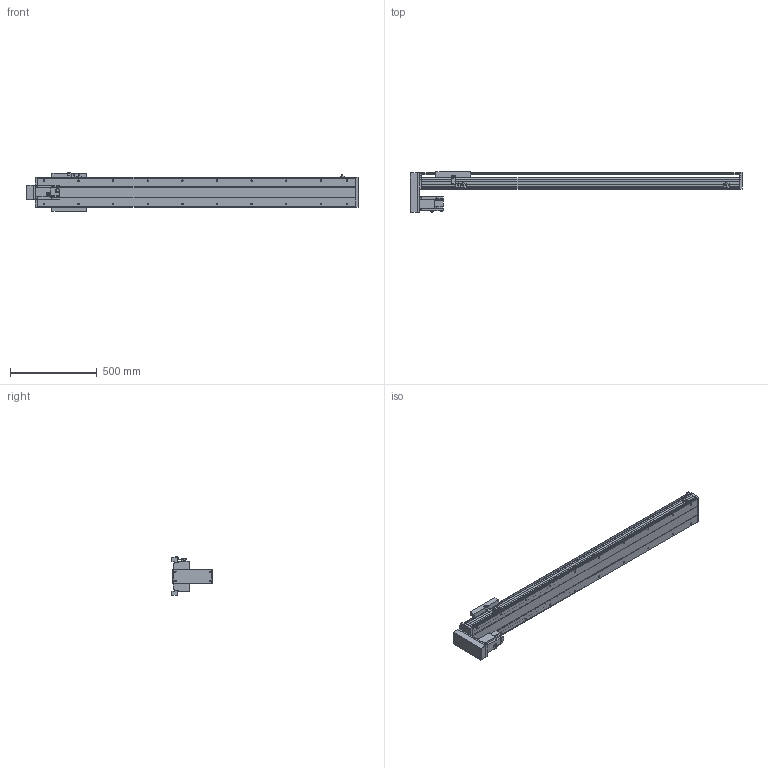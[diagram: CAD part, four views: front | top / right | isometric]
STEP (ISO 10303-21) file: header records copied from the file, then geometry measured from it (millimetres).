
FILE_DESCRIPTION(/* description */ ('STEP AP214'),/* implementation_level */ '2;1');
FILE_NAME(/* name */ 'PSS200-L10-S1500-BM-T75-C1-N(0)',/* time_stamp */ '2022-06-29T09:55:35+02:00',/* author */ ('License CC BY-ND 4.0'),/* organization */ ('CADENAS'),/* preprocessor_version */ 'ST-DEVELOPER v18.102',/* originating_system */ 'PARTsolutions',/* authorisation */ ' ');
FILE_SCHEMA (('AUTOMOTIVE_DESIGN {1 0 10303 214 3 1 1}'));
Length unit declared in the file: millimetre
Products named in the file (8): PSS200-L10-S1500-BM-T75-C1-N(0); PSS200-S1500-BM-N_S; T75-p1; PSS200BM-N_h; PSS200-N_sensor; PSS200-BM-C1-N_sl; PSS200-N_Q; PSS200-S1500-BM-C1-N_body
Assembly tree (9 placements, depth 2):
  PSS200-L10-S1500-BM-T75-C1-N(0)
    PSS200-S1500-BM-N_S
    T75-p1
    PSS200BM-N_h
    PSS200-N_sensor  x3
    PSS200-BM-C1-N_sl
    PSS200-N_Q
    PSS200-S1500-BM-C1-N_body
Bounding box: 1916.85 x 234.45 x 223.86 mm (x, y, z)
Volume: 11480066.7 mm3; surface area: 2908251.1 mm2
Topology: 9 solids, 9 shells, 614 faces, 1649 edges, 1094 vertices
Faces by surface type: plane 452, cylinder 130, cone 28, sphere 4
Full cylindrical faces by diameter (mm): 4 x2, 4.5 x4, 6 x7, 6.647 x24, 7.4 x4, 8 x8, 10 x6, 25 x1, 40 x1, 67 x1
Entity records: 17068 total; most frequent: CARTESIAN_POINT 2949, DIRECTION 2827, ORIENTED_EDGE 2770, EDGE_CURVE 1385, LINE 1071, VECTOR 1071, VERTEX_POINT 968, AXIS2_PLACEMENT_3D 878
